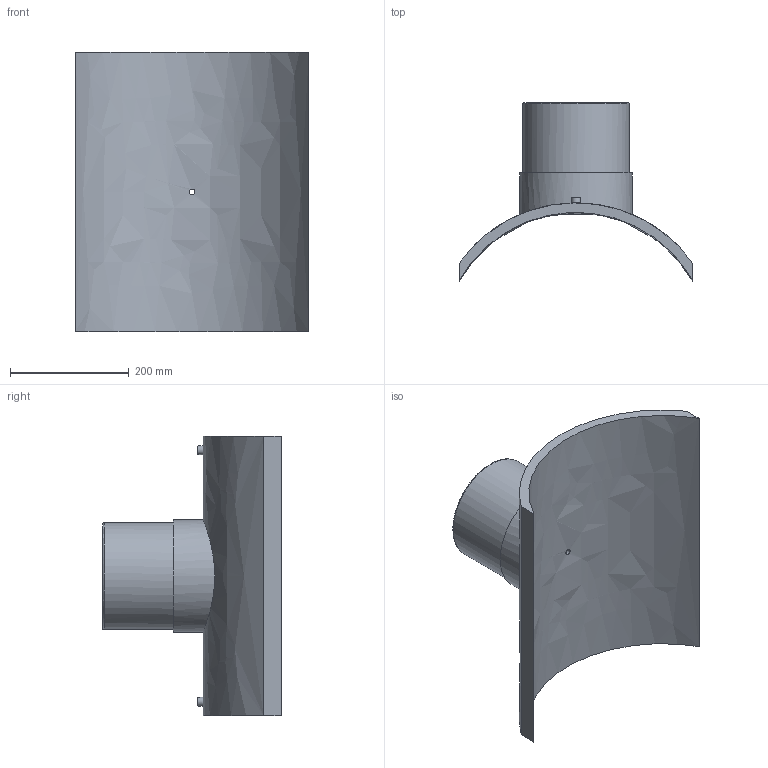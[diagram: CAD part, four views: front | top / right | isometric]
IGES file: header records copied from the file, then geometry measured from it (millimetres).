
Global section: file name: 495803450180T; native system: Autodesk Inventor 2019; preprocessor: unknown; author: KIM; date: 20240404.115047; units: millimetre
Bounding box: 393 x 300.4 x 470 mm (x, y, z)
Volume: 5299039.7 mm3; surface area: 673308 mm2
Topology: 1 solids, 1 shells, 29 faces, 60 edges, 43 vertices
Faces by surface type: bspline 29
